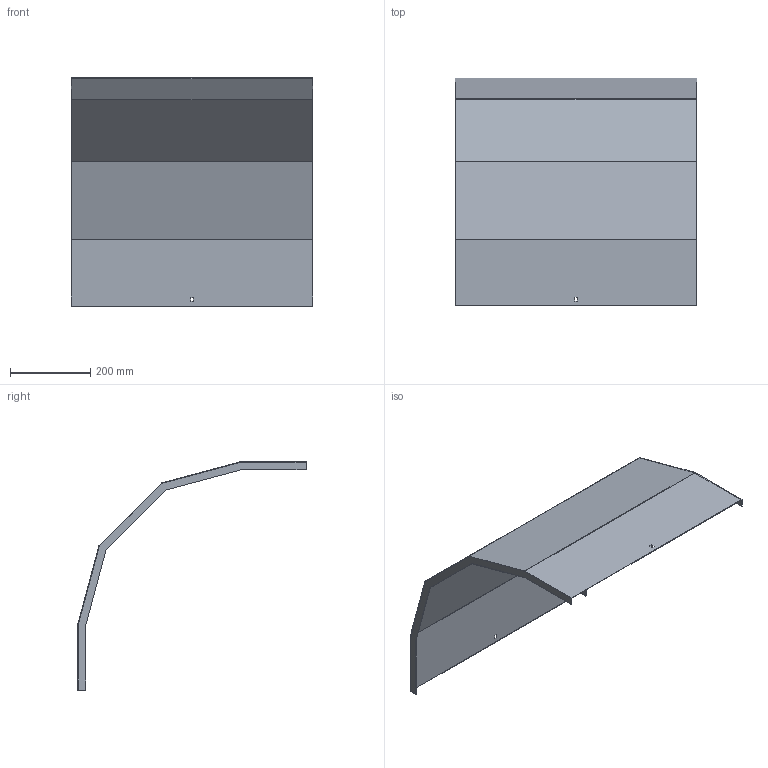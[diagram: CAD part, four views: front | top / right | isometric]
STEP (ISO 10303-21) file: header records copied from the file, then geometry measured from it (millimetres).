
FILE_DESCRIPTION (( 'STEP AP214' ), '1' );
FILE_NAME ('A2_33N3D600.step', '2025-02-21T10:45:08', ( '' ), ( '' ), 'SwSTEP 2.0', 'SolidWorks 2023', '' );
FILE_SCHEMA (( 'AUTOMOTIVE_DESIGN' ));
Length unit declared in the file: millimetre
Products named in the file (1): A2_33N3D600
Bounding box: 603 x 569.61 x 569.61 mm (x, y, z)
Volume: 916475.9 mm3; surface area: 1226759.5 mm2
Topology: 1 solids, 1 shells, 34 faces, 96 edges, 64 vertices
Faces by surface type: plane 34
Entity records: 1111 total; most frequent: CARTESIAN_POINT 195, ORIENTED_EDGE 192, DIRECTION 166, LINE 96, VECTOR 96, EDGE_CURVE 96, VERTEX_POINT 64, EDGE_LOOP 38
